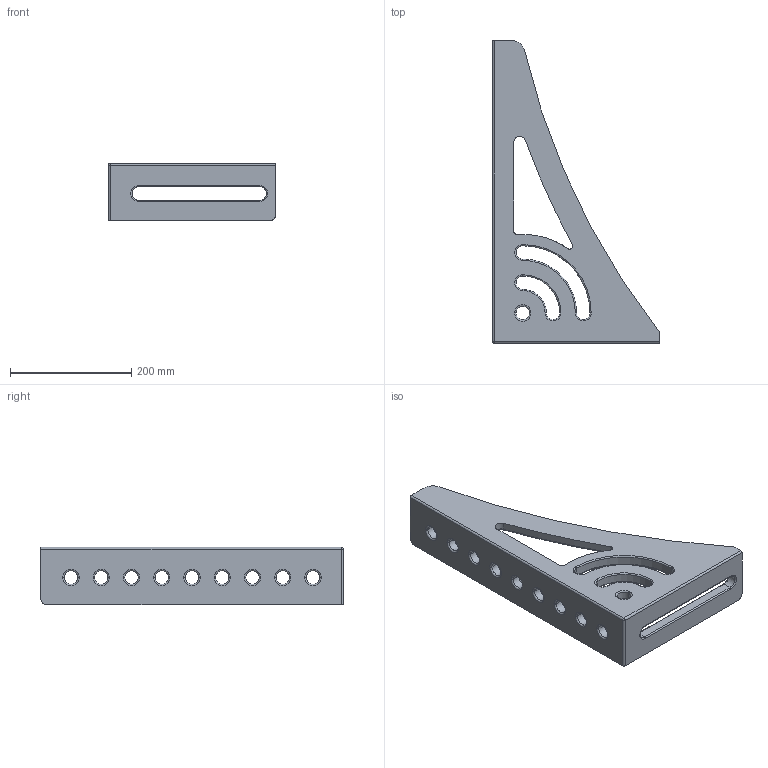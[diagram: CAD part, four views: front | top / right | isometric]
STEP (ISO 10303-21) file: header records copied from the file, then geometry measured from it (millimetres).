
FILE_DESCRIPTION (( 'STEP AP203' ), '1' );
FILE_NAME ('220164.STEP', '2020-03-02T10:56:12', ( '' ), ( '' ), 'SwSTEP 2.0', 'SolidWorks 2019', '' );
FILE_SCHEMA (( 'CONFIG_CONTROL_DESIGN' ));
Length unit declared in the file: millimetre
Products named in the file (2): 220164; 220164_Spanndrehwinkel 500 Links_Foto^220164_165 Anschlag- und Spannwinkel 500 G mit Drehwinkel_links
Assembly tree (1 placements, depth 2):
  220164
    220164_Spanndrehwinkel 500 Links_Foto^220164_165 Anschlag- und Spannwinkel 500 G mit Drehwinkel_links
Bounding box: 276 x 500 x 95 mm (x, y, z)
Volume: 1660875.7 mm3; surface area: 285004.9 mm2
Topology: 1 solids, 1 shells, 639 faces, 1642 edges, 1023 vertices
Faces by surface type: bspline 224, plane 156, cylinder 151, torus 83, cone 20, sphere 5
Entity records: 26697 total; most frequent: CARTESIAN_POINT 12316, ORIENTED_EDGE 3262, DIRECTION 2491, EDGE_CURVE 1631, VERTEX_POINT 1023, AXIS2_PLACEMENT_3D 897, LINE 697, VECTOR 697
